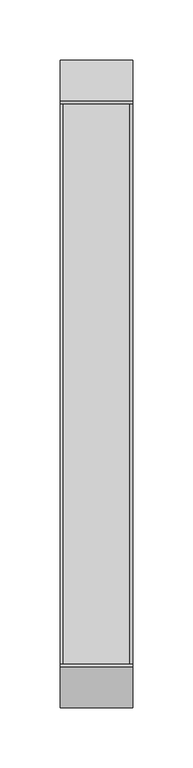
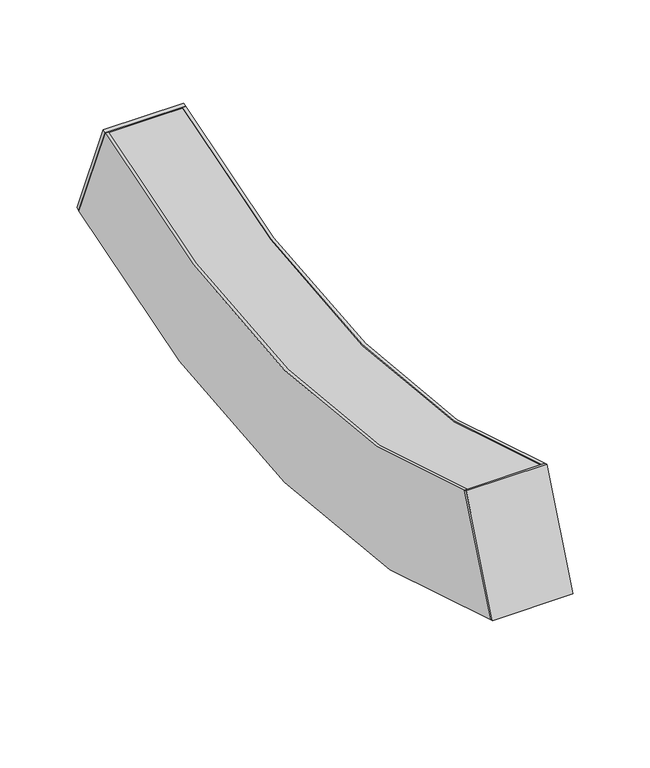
"""IFC4 building model written with IfcOpenShell, lengths in millimetres: light fixture geometry, Lighting-Recessed-Lumenwerx-Curvia_2_XYZ-INNC : CURV2PPAT-D-HLO-SW-80-350-35-1FT-INNC."""

from ifc_helpers import new_model, si_unit, point, frame, frame_2d, origin, place, context, project, spatial, polyline, circle_curve, trimmed, segment, composite_curve, outline, extrude, source, transform, mapped, element, save
from ifc_brep_helpers import plane_surface, cylinder_surface, advanced_brep


def light_fixture_7cf03bbb(model_context):
    return source(origin(), model_context, "Body", "SolidModel", [
        extrude(outline(polyline([(0.0, -60.325), (0.0, 0.0), (2.54, 0.0), (2.54, -60.325), (0.0, -60.325)])), frame((30.1625, 1005.2389713, -34.7578375), z_axis=(0.0, -0.38268343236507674, 0.9238795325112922), x_axis=(0.0, -0.9238795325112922, -0.38268343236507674)), (0.0, 0.0, 1.0), 88.9),
        extrude(outline(polyline([(0.0, -60.325), (0.0, 0.0), (2.54, 0.0), (2.54, -60.325), (0.0, -60.325)])), frame((-30.1625, 465.9369082, -34.7578375), z_axis=(0.0, 0.3826834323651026, 0.9238795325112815), x_axis=(0.0, 0.9238795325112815, -0.3826834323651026)), (0.0, 0.0, 1.0), 88.9),
        extrude(outline(composite_curve([segment(polyline([(969.2061336, 45.595788), (970.1781495, 43.249134)]), True, "CONTINUOUS"), segment(trimmed(circle_curve(frame_2d((735.5879398, 609.6)), 613.01376), [point((970.1781495, 43.249134))], [point((500.99773, 43.249134))], False, "CARTESIAN"), True, "CONTINUOUS"), segment(polyline([(500.99773, 43.249134), (501.9697459, 45.595788)]), True, "CONTINUOUS"), segment(trimmed(circle_curve(frame_2d((735.5879398, 609.6)), 610.47376), [point((501.9697459, 45.595788))], [point((969.2061336, 45.595788))], True, "CARTESIAN"), True, "CONTINUOUS")], self_intersect=False)), frame((-27.77998, 0.0, 0.0), z_axis=(1.0, 0.0, 0.0), x_axis=(0.0, 1.0, 0.0)), (0.0, 0.0, 1.0), 55.55996),
        extrude(outline(composite_curve([segment(polyline([(468.6179357, -34.9226045), (469.5899516, -32.5759505)]), True, "CONTINUOUS"), segment(trimmed(circle_curve(frame_2d((735.5879398, 609.6)), 695.08624), [point((469.5899516, -32.5759505))], [point((1001.5859279, -32.5759505))], True, "CARTESIAN"), True, "CONTINUOUS"), segment(polyline([(1001.5859279, -32.5759505), (1002.5579438, -34.9226045)]), True, "CONTINUOUS"), segment(trimmed(circle_curve(frame_2d((735.5879398, 609.6)), 697.62624), [point((1002.5579438, -34.9226045))], [point((468.6179357, -34.9226045))], False, "CARTESIAN"), True, "CONTINUOUS")], self_intersect=False)), frame((-27.77998, 0.0, 0.0), z_axis=(1.0, 0.0, 0.0), x_axis=(0.0, 1.0, 0.0)), (0.0, 0.0, 1.0), 55.55996),
        extrude(outline(composite_curve([segment(trimmed(circle_curve(frame_2d((735.5879398, 609.6)), 698.5), [point((1002.8923173, -35.7298535))], [point((468.2835622, -35.7298535))], False, "CARTESIAN"), True, "CONTINUOUS"), segment(polyline([(468.2835622, -35.7298535), (502.3041194, 46.403037)]), True, "CONTINUOUS"), segment(trimmed(circle_curve(frame_2d((735.5879398, 609.6)), 609.6), [point((502.3041194, 46.403037))], [point((968.8717601, 46.403037))], True, "CARTESIAN"), True, "CONTINUOUS"), segment(polyline([(968.8717601, 46.403037), (1002.8923173, -35.7298535)]), True, "CONTINUOUS")], self_intersect=False)), frame((27.77998, 0.0, 0.0), z_axis=(1.0, 0.0, 0.0), x_axis=(0.0, 1.0, 0.0)), (0.0, 0.0, 1.0), 2.38252),
        extrude(outline(composite_curve([segment(trimmed(circle_curve(frame_2d((735.5879398, 609.6)), 698.5), [point((1002.8923173, -35.7298535))], [point((468.2835622, -35.7298535))], False, "CARTESIAN"), True, "CONTINUOUS"), segment(polyline([(468.2835622, -35.7298535), (502.3041194, 46.403037)]), True, "CONTINUOUS"), segment(trimmed(circle_curve(frame_2d((735.5879398, 609.6)), 609.6), [point((502.3041194, 46.403037))], [point((968.8717601, 46.403037))], True, "CARTESIAN"), True, "CONTINUOUS"), segment(polyline([(968.8717601, 46.403037), (1002.8923173, -35.7298535)]), True, "CONTINUOUS")], self_intersect=False)), frame((-30.1625, 0.0, 0.0), z_axis=(1.0, 0.0, 0.0), x_axis=(0.0, 1.0, 0.0)), (0.0, 0.0, 1.0), 2.38252),
        advanced_brep(
        [(0.0, 729.2379398, -88.9), (0.0, 741.9379398, -88.9), (0.0, 741.9379398, -90.4875), (0.0, 729.2379398, -90.4875), (0.0, 735.5879398, -88.9), (0.0, 735.5879398, -90.4875)],
        [
            (0, 1, circle_curve(frame((0.0, 735.5879398, -88.9), z_axis=(0.0, 0.0, -1.0), x_axis=(0.0, 1.0, 0.0)), 6.35)),
            (1, 2),
            (2, 3, circle_curve(frame((0.0, 735.5879398, -90.4875), z_axis=(0.0, 0.0, 1.0), x_axis=(0.0, 1.0, 0.0)), 6.35)),
            (3, 0),
            (1, 0, circle_curve(frame((0.0, 735.5879398, -88.9), z_axis=(0.0, 0.0, -1.0), x_axis=(0.0, 1.0, 0.0)), 6.35)),
            (3, 2, circle_curve(frame((0.0, 735.5879398, -90.4875), z_axis=(0.0, 0.0, 1.0), x_axis=(0.0, 1.0, 0.0)), 6.35)),
            (4, 1),
            (0, 4),
            (2, 5),
            (5, 3),
        ],
        [
            cylinder_surface(frame((0.0, 735.5879398, 13.49375), z_axis=(0.0, 0.0, 1.0), x_axis=(0.0, 1.0, 0.0)), 6.35),
            plane_surface(frame((0.0, 735.5879398, -88.9), z_axis=(0.0, 0.0, 1.0), x_axis=(0.0, 1.0, 0.0))),
            plane_surface(frame((0.0, 735.5879398, -90.4875), z_axis=(0.0, 0.0, -1.0), x_axis=(0.0, 1.0, 0.0))),
        ],
        [
            (0, [[1, 2, 3, 4]]),
            (0, [[5, -4, 6, -2]]),
            (1, [[7, -1, 8]]),
            (1, [[-8, -5, -7]]),
            (2, [[-3, 9, 10]]),
            (2, [[-6, -10, -9]]),
        ],
    ),
    ])


if __name__ == "__main__":
    model = new_model("IFC4")
    model_context = context("Model", 3, world=origin())
    ifc_project = project(units=[si_unit("LENGTHUNIT", "METRE", prefix="MILLI")], contexts=[model_context])
    site = spatial("IfcSite", under=ifc_project)
    building = spatial("IfcBuilding", under=site)
    placement = place(None, origin())
    light_fixture_shape = light_fixture_7cf03bbb(model_context)
    element("IfcLightFixture", 1, ObjectType="Lighting-Recessed-Lumenwerx-Curvia_2_XYZ-INNC : CURV2PPAT-D-HLO-SW-80-350-35-1FT-INNC", at=placement, inside=building, context=model_context, shape_type="MappedRepresentation", body=[
        mapped(light_fixture_shape, transform((0.0, 0.0, 0.0), x_axis=(1.0, 0.0, 0.0), y_axis=(0.0, 1.0, 0.0), z_axis=(0.0, 0.0, 1.0))),
    ])
    save(model, "model.ifc")
